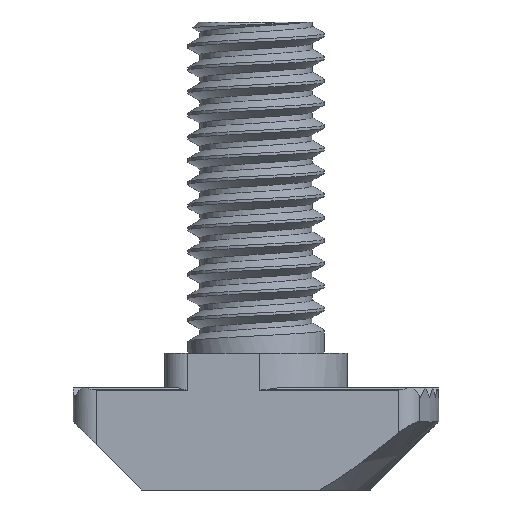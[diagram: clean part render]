
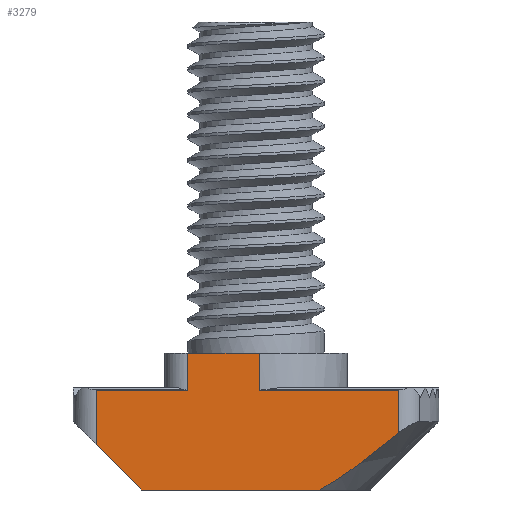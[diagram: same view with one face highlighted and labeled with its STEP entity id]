
A CAD part, front view. The second image highlights one B-rep face of the part: STEP entity #3279.
In plain terms, the highlighted planar face has unit normal (0, -1, 0).
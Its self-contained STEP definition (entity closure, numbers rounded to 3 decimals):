
#68 = EDGE_CURVE ( 'NONE', #3072, #1837, #5918, .T. ) ;
#97 = CARTESIAN_POINT ( 'NONE',  ( 0.15, -4.15, 6. ) ) ;
#102 = B_SPLINE_CURVE_WITH_KNOTS ( 'NONE', 3,
 ( #2743, #5245, #4835, #1062, #2778, #540 ),
 .UNSPECIFIED., .F., .F.,
 ( 4, 2, 4 ),
 ( 0., 0.002, 0.004 ),
 .UNSPECIFIED. ) ;
#113 = EDGE_CURVE ( 'NONE', #6031, #2399, #4379, .T. ) ;
#417 = LINE ( 'NONE', #4608, #6537 ) ;
#501 = LINE ( 'NONE', #2462, #2033 ) ;
#540 = CARTESIAN_POINT ( 'NONE',  ( 2.789, -4.15, 0. ) ) ;
#552 = VERTEX_POINT ( 'NONE', #2783 ) ;
#712 = DIRECTION ( 'NONE',  ( 0., 0., 1. ) ) ;
#742 = CARTESIAN_POINT ( 'NONE',  ( 0.15, -4.15, 4.5 ) ) ;
#815 = VECTOR ( 'NONE', #6365, 1000. ) ;
#894 = CARTESIAN_POINT ( 'NONE',  ( -5., -4.15, 0. ) ) ;
#1044 = EDGE_CURVE ( 'NONE', #1837, #2643, #5584, .T. ) ;
#1062 = CARTESIAN_POINT ( 'NONE',  ( 4.002, -4.15, 0.753 ) ) ;
#1128 = EDGE_CURVE ( 'NONE', #4646, #3072, #102, .T. ) ;
#1150 = LINE ( 'NONE', #2273, #2450 ) ;
#1228 = LINE ( 'NONE', #5408, #5950 ) ;
#1306 = CARTESIAN_POINT ( 'NONE',  ( 6.251, -4.15, 4.371 ) ) ;
#1341 = EDGE_CURVE ( 'NONE', #2643, #6345, #1228, .T. ) ;
#1389 = ORIENTED_EDGE ( 'NONE', *, *, #113, .F. ) ;
#1484 = CARTESIAN_POINT ( 'NONE',  ( -3., -4.15, 6. ) ) ;
#1508 = CARTESIAN_POINT ( 'NONE',  ( 6.251, -4.15, 2.503 ) ) ;
#1837 = VERTEX_POINT ( 'NONE', #1957 ) ;
#1879 = EDGE_CURVE ( 'NONE', #2399, #4442, #4858, .T. ) ;
#1909 = CARTESIAN_POINT ( 'NONE',  ( 2.789, -4.15, 0. ) ) ;
#1957 = CARTESIAN_POINT ( 'NONE',  ( -5., -4.15, 0. ) ) ;
#2033 = VECTOR ( 'NONE', #2564, 1000. ) ;
#2181 = DIRECTION ( 'NONE',  ( -1., 0., 0. ) ) ;
#2242 = DIRECTION ( 'NONE',  ( 0., 0., -1. ) ) ;
#2246 = DIRECTION ( 'NONE',  ( 0., 1., 0. ) ) ;
#2273 = CARTESIAN_POINT ( 'NONE',  ( 6.251, -4.15, 4.5 ) ) ;
#2359 = VECTOR ( 'NONE', #3763, 1000. ) ;
#2370 = AXIS2_PLACEMENT_3D ( 'NONE', #4241, #2246, #4309 ) ;
#2399 = VERTEX_POINT ( 'NONE', #4045 ) ;
#2450 = VECTOR ( 'NONE', #2242, 1000. ) ;
#2462 = CARTESIAN_POINT ( 'NONE',  ( -8., -4.15, 4.371 ) ) ;
#2556 = EDGE_CURVE ( 'NONE', #6031, #5438, #3321, .T. ) ;
#2564 = DIRECTION ( 'NONE',  ( 1., 0., 0. ) ) ;
#2643 = VERTEX_POINT ( 'NONE', #5920 ) ;
#2743 = CARTESIAN_POINT ( 'NONE',  ( 6.251, -4.15, 2.503 ) ) ;
#2745 = DIRECTION ( 'NONE',  ( -1., 0., 0. ) ) ;
#2765 = ORIENTED_EDGE ( 'NONE', *, *, #1879, .F. ) ;
#2770 = DIRECTION ( 'NONE',  ( 1., 0., 0. ) ) ;
#2774 = PLANE ( 'NONE',  #2370 ) ;
#2778 = CARTESIAN_POINT ( 'NONE',  ( 3.415, -4.15, 0.349 ) ) ;
#2783 = CARTESIAN_POINT ( 'NONE',  ( -3., -4.15, 4.371 ) ) ;
#2881 = EDGE_CURVE ( 'NONE', #6345, #552, #501, .T. ) ;
#3072 = VERTEX_POINT ( 'NONE', #1909 ) ;
#3203 = ORIENTED_EDGE ( 'NONE', *, *, #2556, .T. ) ;
#3279 = ADVANCED_FACE ( 'NONE', ( #5811 ), #2774, .F. ) ;
#3321 = LINE ( 'NONE', #4836, #6090 ) ;
#3396 = ORIENTED_EDGE ( 'NONE', *, *, #4738, .F. ) ;
#3728 = ORIENTED_EDGE ( 'NONE', *, *, #1044, .F. ) ;
#3763 = DIRECTION ( 'NONE',  ( 0., 0., -1. ) ) ;
#4022 = CARTESIAN_POINT ( 'NONE',  ( -8., -4.15, 4.371 ) ) ;
#4045 = CARTESIAN_POINT ( 'NONE',  ( 0.15, -4.15, 4.371 ) ) ;
#4109 = EDGE_CURVE ( 'NONE', #552, #5438, #417, .T. ) ;
#4241 = CARTESIAN_POINT ( 'NONE',  ( -8., -4.15, 4.5 ) ) ;
#4309 = DIRECTION ( 'NONE',  ( 0., 0., 1. ) ) ;
#4379 = LINE ( 'NONE', #742, #2359 ) ;
#4442 = VERTEX_POINT ( 'NONE', #1306 ) ;
#4555 = ORIENTED_EDGE ( 'NONE', *, *, #68, .F. ) ;
#4608 = CARTESIAN_POINT ( 'NONE',  ( -3., -4.15, 4.5 ) ) ;
#4646 = VERTEX_POINT ( 'NONE', #1508 ) ;
#4738 = EDGE_CURVE ( 'NONE', #4442, #4646, #1150, .T. ) ;
#4835 = CARTESIAN_POINT ( 'NONE',  ( 5.147, -4.15, 1.6 ) ) ;
#4836 = CARTESIAN_POINT ( 'NONE',  ( 0.15, -4.15, 6. ) ) ;
#4858 = LINE ( 'NONE', #4022, #5210 ) ;
#5210 = VECTOR ( 'NONE', #2770, 1000. ) ;
#5245 = CARTESIAN_POINT ( 'NONE',  ( 5.703, -4.15, 2.046 ) ) ;
#5287 = EDGE_LOOP ( 'NONE', ( #2765, #1389, #3203, #5659, #6750, #5907, #3728, #4555, #5996, #3396 ) ) ;
#5408 = CARTESIAN_POINT ( 'NONE',  ( -7., -4.15, 4.5 ) ) ;
#5438 = VERTEX_POINT ( 'NONE', #1484 ) ;
#5439 = CARTESIAN_POINT ( 'NONE',  ( -8., -4.15, 0. ) ) ;
#5584 = LINE ( 'NONE', #894, #815 ) ;
#5659 = ORIENTED_EDGE ( 'NONE', *, *, #4109, .F. ) ;
#5811 = FACE_OUTER_BOUND ( 'NONE', #5287, .T. ) ;
#5863 = VECTOR ( 'NONE', #2181, 1000. ) ;
#5907 = ORIENTED_EDGE ( 'NONE', *, *, #1341, .F. ) ;
#5918 = LINE ( 'NONE', #5439, #5863 ) ;
#5920 = CARTESIAN_POINT ( 'NONE',  ( -7., -4.15, 2. ) ) ;
#5950 = VECTOR ( 'NONE', #712, 1000. ) ;
#5996 = ORIENTED_EDGE ( 'NONE', *, *, #1128, .F. ) ;
#6031 = VERTEX_POINT ( 'NONE', #97 ) ;
#6090 = VECTOR ( 'NONE', #2745, 1000. ) ;
#6239 = DIRECTION ( 'NONE',  ( 0., 0., 1. ) ) ;
#6345 = VERTEX_POINT ( 'NONE', #6347 ) ;
#6347 = CARTESIAN_POINT ( 'NONE',  ( -7., -4.15, 4.371 ) ) ;
#6365 = DIRECTION ( 'NONE',  ( -0.707, 0., 0.707 ) ) ;
#6537 = VECTOR ( 'NONE', #6239, 1000. ) ;
#6750 = ORIENTED_EDGE ( 'NONE', *, *, #2881, .F. ) ;
